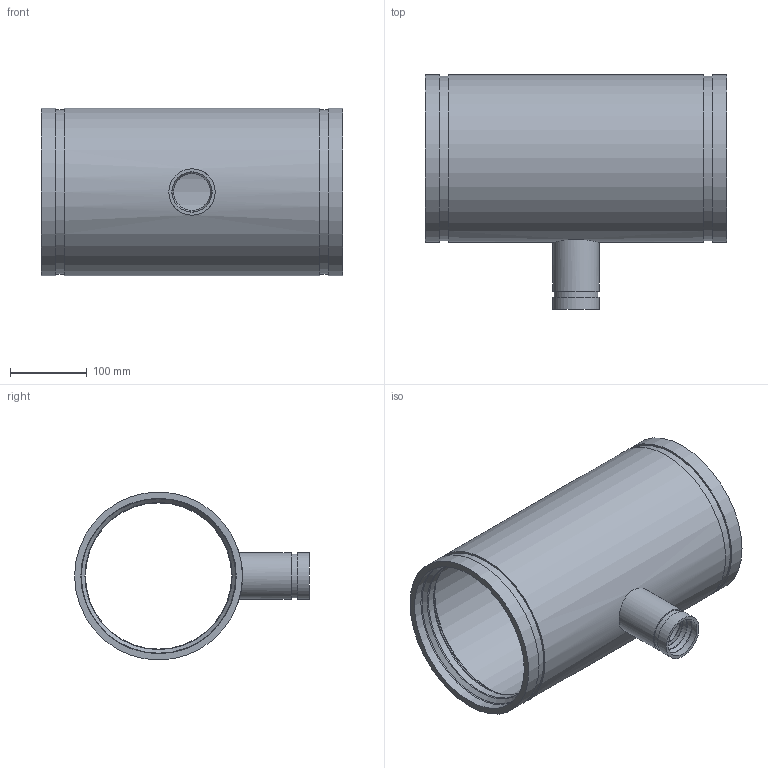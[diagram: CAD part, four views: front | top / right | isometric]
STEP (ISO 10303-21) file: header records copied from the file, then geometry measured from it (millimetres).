
FILE_DESCRIPTION(/* description */ ('VIC REDUCING TEE No 425H-SS','CAx-IF Rec.Pracs.---Representation and Presentation of Product Manufacturing Information (PMI)---4.0---2014-10-13'),/* implementation_level */ '2;1');
FILE_NAME(/* name */ 'C:\Users\kkamble\AppData\Roaming\Autodesk\ApplicationPlugins\Back Up\Victaulic_SS-OGS_Tee Reducing_Sched 40S_No 425H SS (OGS)\Victaulic_SS-OGS_Tee Reducing_Sched 40S_No 425H SS (OGS)_08.0x02.5 (200x65).stp',/* time_stamp */ '2020-08-27T17:20:10+06:00',/* author */ ('CORINNE GRAY'),/* organization */ ('Victaulic'),/* preprocessor_version */ 'ST-DEVELOPER v17.2',/* originating_system */ 'Autodesk Inventor 2019',/* authorisation */ '');
FILE_SCHEMA (('AP242_MANAGED_MODEL_BASED_3D_ENGINEERING_MIM_LF { 1 0 10303 442 1 1 4 }'));
Length unit declared in the file: inch
Products named in the file (1): 425H SS-08.0x02.5
Bounding box: 393.7 x 306.39 x 219.07 mm (x, y, z)
Volume: 2274385.9 mm3; surface area: 571551.7 mm2
Topology: 1 solids, 1 shells, 43 faces, 134 edges, 100 vertices
Faces by surface type: cylinder 16, torus 12, plane 9, cone 6
Full cylindrical faces by diameter (mm): 48.006 x1, 52.578 x2, 57.15 x1, 60.325 x2, 190.983 x2, 202.692 x3, 214.401 x2, 219.075 x3
Entity records: 1919 total; most frequent: CARTESIAN_POINT 427, DIRECTION 352, ORIENTED_EDGE 268, AXIS2_PLACEMENT_3D 165, EDGE_CURVE 134, CIRCLE 108, VERTEX_POINT 100, EDGE_LOOP 54
